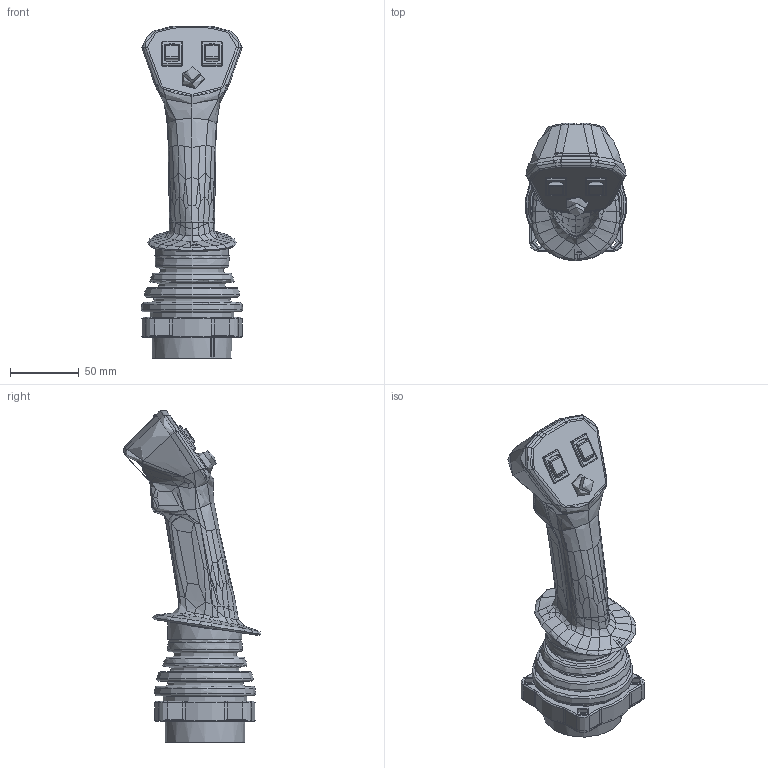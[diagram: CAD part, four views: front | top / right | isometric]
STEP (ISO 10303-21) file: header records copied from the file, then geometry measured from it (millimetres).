
FILE_DESCRIPTION(/* description */ (''),/* implementation_level */ '2;1');
FILE_NAME(/* name */ 'C:\Users\mk\Desktop\212-0117.stp',/* time_stamp */ '2024-11-27T10:05:39+01:00',/* author */ ('mk'),/* organization */ (''),/* preprocessor_version */ 'ST-DEVELOPER v18.1',/* originating_system */ 'Autodesk Inventor 2021',/* authorisation */ '');
FILE_SCHEMA (('AUTOMOTIVE_DESIGN { 1 0 10303 214 3 1 1 }'));
Products named in the file (1): 212-0117_Shrinkwrap_1
Bounding box: 73.71 x 100.33 x 241.95 mm (x, y, z)
Volume: 286207.7 mm3; surface area: 170275.5 mm2
Topology: 17 solids, 23 shells, 4514 faces, 11182 edges, 6715 vertices
Faces by surface type: bspline 1544, plane 1271, cylinder 994, torus 390, sphere 298, cone 17
Full cylindrical faces by diameter (mm): 0.1 x6, 0.2 x1, 1.5 x4, 1.829 x2, 2 x2, 2.337 x2, 2.46 x3, 2.55 x2, 3 x2, 3.15 x5, 3.2 x2, 5 x1, 5.5 x20, 6.5 x1, 6.8 x4, 8 x4, 10 x4, 11.2 x1, 11.5 x4, 11.7 x1, 15.5 x1, 17 x1, 17.2 x1, 47 x1, 51 x1, 52 x2, 54 x2, 56 x1, 58 x1, 61 x2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
Entity records: 381764 total; most frequent: CARTESIAN_POINT 281194, ORIENTED_EDGE 22134, DIRECTION 16650, EDGE_CURVE 11076, VERTEX_POINT 6713, AXIS2_PLACEMENT_3D 6285, EDGE_LOOP 4729, FACE_OUTER_BOUND 4512
